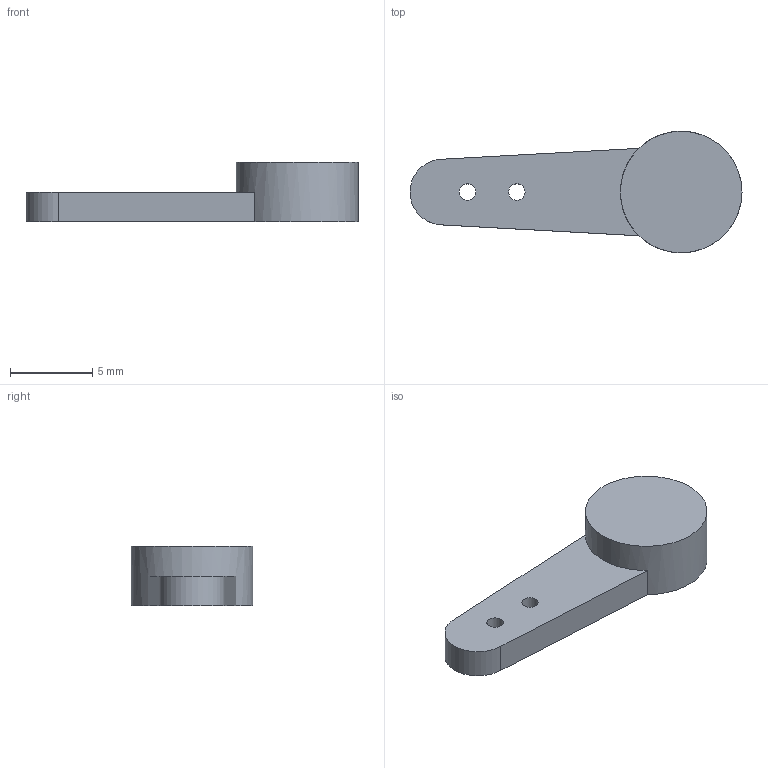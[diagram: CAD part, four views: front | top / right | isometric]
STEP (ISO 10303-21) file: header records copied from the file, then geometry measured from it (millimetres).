
FILE_DESCRIPTION(('FreeCAD Model'),'2;1');
FILE_NAME('Open CASCADE Shape Model','2026-11-08T20:38:39',('FreeCAD'),( 'FreeCAD'),'Open CASCADE STEP processor 7.8','FreeCAD','Unknown');
FILE_SCHEMA(('AUTOMOTIVE_DESIGN { 1 0 10303 214 1 1 1 1 }'));
Length unit declared in the file: millimetre
Products named in the file (1): Open CASCADE STEP translator 7.8 11
Bounding box: 20.2 x 7.4 x 3.6 mm (x, y, z)
Volume: 255.9 mm3; surface area: 336.9 mm2
Topology: 1 solids, 1 shells, 9 faces, 21 edges, 14 vertices
Faces by surface type: plane 5, cylinder 4
Full cylindrical faces by diameter (mm): 1 x2, 7.4 x1
Entity records: 283 total; most frequent: DIRECTION 51, CARTESIAN_POINT 45, ORIENTED_EDGE 42, EDGE_CURVE 21, AXIS2_PLACEMENT_3D 20, VERTEX_POINT 14, FACE_BOUND 13, EDGE_LOOP 13
